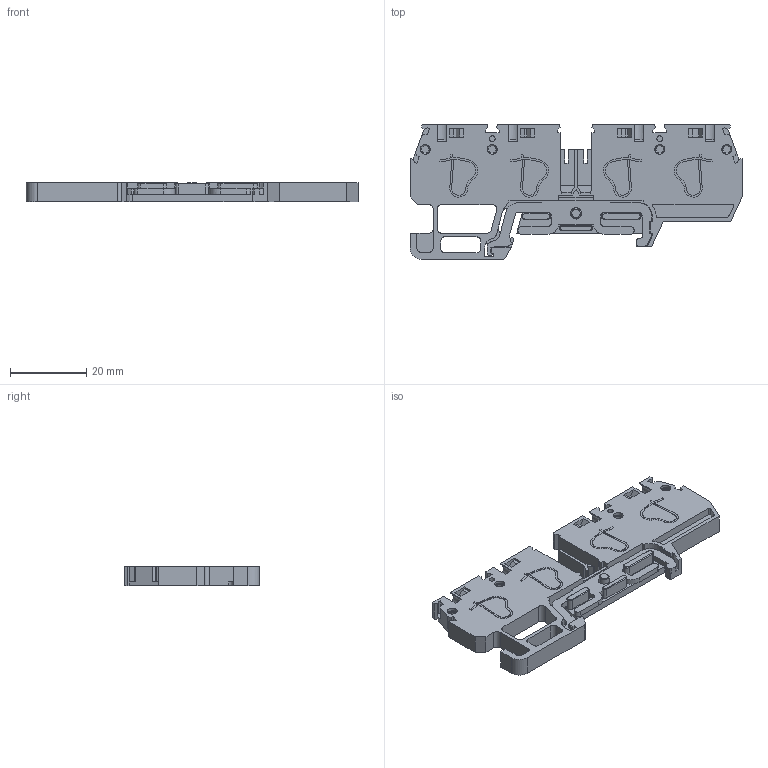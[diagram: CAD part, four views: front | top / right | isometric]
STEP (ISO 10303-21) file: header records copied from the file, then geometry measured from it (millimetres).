
FILE_DESCRIPTION (( 'STEP AP214' ), '1' );
FILE_NAME ('42452_EURO QME4_2.5_35_1.STEP', '2021-03-26T10:41:07', ( '' ), ( '' ), 'SwSTEP 2.0', 'SolidWorks 2020', '' );
FILE_SCHEMA (( 'AUTOMOTIVE_DESIGN' ));
Length unit declared in the file: millimetre
Products named in the file (1): 42452_EURO QME4_2.5_35_1
Bounding box: 87.2 x 35.4 x 5.1 mm (x, y, z)
Volume: 8816.7 mm3; surface area: 8494.5 mm2
Topology: 1 solids, 1 shells, 665 faces, 1837 edges, 1202 vertices
Faces by surface type: plane 430, cylinder 184, cone 19, torus 16, bspline 16
Entity records: 21776 total; most frequent: CARTESIAN_POINT 4503, ORIENTED_EDGE 3674, DIRECTION 3510, EDGE_CURVE 1837, VECTOR 1348, LINE 1348, VERTEX_POINT 1202, AXIS2_PLACEMENT_3D 1081
